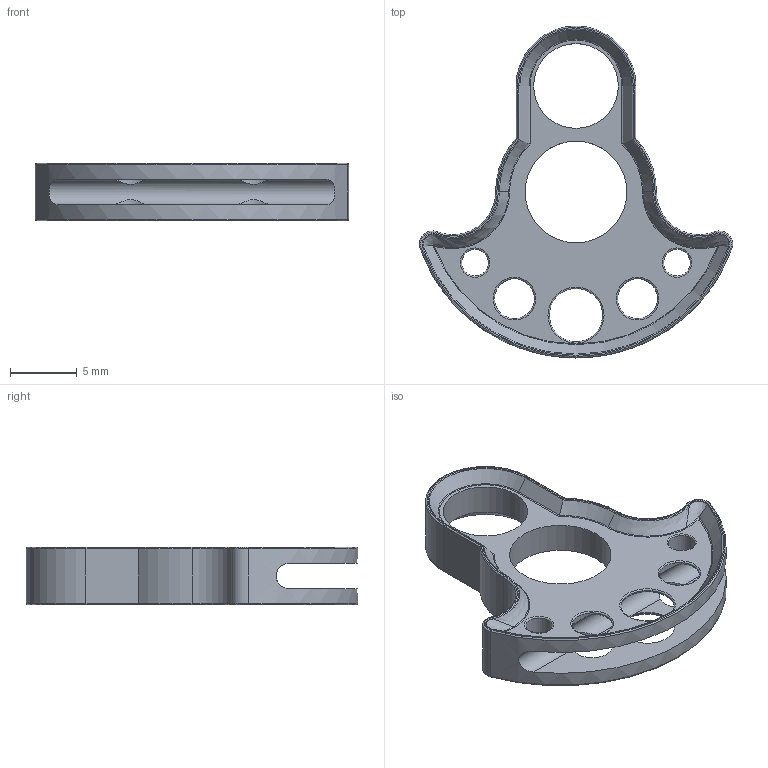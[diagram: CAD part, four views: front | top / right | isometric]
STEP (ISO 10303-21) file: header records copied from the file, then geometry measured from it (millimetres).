
FILE_DESCRIPTION((''),'2;1');
FILE_NAME('C:\Autodesk Simulation Mechanical\c05\Tut02\c05_tut02.stp','2012-08-20T14:09:43',('Sham-2011B'),(''),'Autodesk Inventor 2012','Autodesk Inventor 2012','');
FILE_SCHEMA(('AUTOMOTIVE_DESIGN { 1 0 10303 214 1 1 1 1 }'));
Length unit declared in the file: millimetre
Products named in the file (1): CAMSHAFT DISK 2
Bounding box: 23.5 x 24.89 x 4.29 mm (x, y, z)
Volume: 455.2 mm3; surface area: 1066.2 mm2
Topology: 1 solids, 1 shells, 117 faces, 300 edges, 182 vertices
Faces by surface type: bspline 36, torus 34, cylinder 31, plane 12, cone 4
Full cylindrical faces by diameter (mm): 2 x2, 3 x4, 4 x2, 6.35 x1, 7.62 x1
Entity records: 4798 total; most frequent: CARTESIAN_POINT 2200, ORIENTED_EDGE 548, DIRECTION 478, EDGE_CURVE 274, AXIS2_PLACEMENT_3D 202, VERTEX_POINT 176, EDGE_LOOP 154, CIRCLE 120
